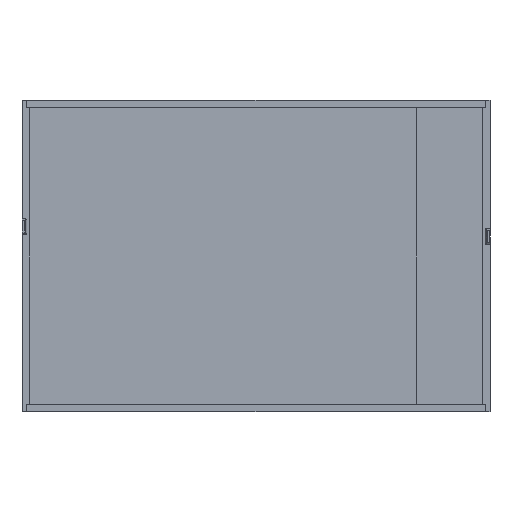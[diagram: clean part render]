
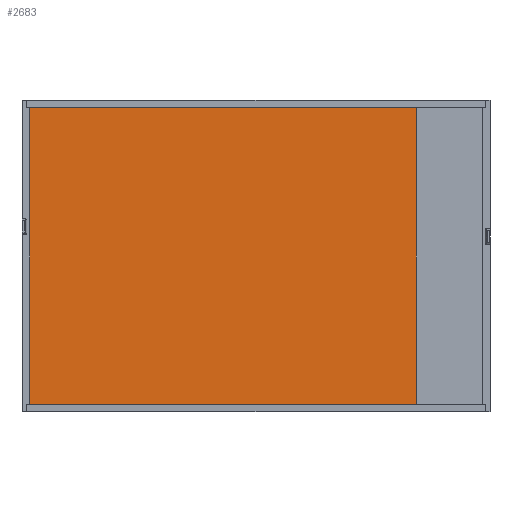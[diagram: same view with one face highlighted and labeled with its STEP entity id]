
A CAD part, front view. The second image highlights one B-rep face of the part: STEP entity #2683.
In plain terms, the highlighted planar face has unit normal (0, -1, 0).
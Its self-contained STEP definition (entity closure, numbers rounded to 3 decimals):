
#232 = LINE ( 'NONE', #3271, #240 ) ;
#240 = VECTOR ( 'NONE', #3231, 1000. ) ;
#407 = CARTESIAN_POINT ( 'NONE',  ( 247.5, 0.2, -189.775 ) ) ;
#558 = CARTESIAN_POINT ( 'NONE',  ( -247.5, 0.2, 189.775 ) ) ;
#1126 = VERTEX_POINT ( 'NONE', #558 ) ;
#1624 = EDGE_CURVE ( 'NONE', #1126, #10946, #3316, .T. ) ;
#2528 = EDGE_CURVE ( 'NONE', #6199, #4204, #7853, .T. ) ;
#2683 = ADVANCED_FACE ( 'NONE', ( #5123 ), #9339, .T. ) ;
#2905 = VECTOR ( 'NONE', #5394, 1000. ) ;
#3162 = CARTESIAN_POINT ( 'NONE',  ( -247.5, 0.2, -189.775 ) ) ;
#3231 = DIRECTION ( 'NONE',  ( 1., 0., 0. ) ) ;
#3271 = CARTESIAN_POINT ( 'NONE',  ( 247.5, 0.2, -189.775 ) ) ;
#3316 = LINE ( 'NONE', #5232, #2905 ) ;
#4115 = ORIENTED_EDGE ( 'NONE', *, *, #9520, .T. ) ;
#4151 = ORIENTED_EDGE ( 'NONE', *, *, #1624, .T. ) ;
#4192 = ORIENTED_EDGE ( 'NONE', *, *, #2528, .T. ) ;
#4204 = VERTEX_POINT ( 'NONE', #7867 ) ;
#4227 = ORIENTED_EDGE ( 'NONE', *, *, #7300, .T. ) ;
#4390 = EDGE_LOOP ( 'NONE', ( #4192, #4227, #4151, #4115 ) ) ;
#4480 = VECTOR ( 'NONE', #7157, 1000. ) ;
#4561 = LINE ( 'NONE', #7171, #4480 ) ;
#5123 = FACE_OUTER_BOUND ( 'NONE', #4390, .T. ) ;
#5230 = AXIS2_PLACEMENT_3D ( 'NONE', #9328, #9285, #9262 ) ;
#5232 = CARTESIAN_POINT ( 'NONE',  ( -247.5, 0.2, 189.775 ) ) ;
#5394 = DIRECTION ( 'NONE',  ( 0., 0., -1. ) ) ;
#6199 = VERTEX_POINT ( 'NONE', #407 ) ;
#7157 = DIRECTION ( 'NONE',  ( -1., 0., 0. ) ) ;
#7171 = CARTESIAN_POINT ( 'NONE',  ( 247.5, 0.2, 189.775 ) ) ;
#7300 = EDGE_CURVE ( 'NONE', #4204, #1126, #4561, .T. ) ;
#7568 = VECTOR ( 'NONE', #11070, 1000. ) ;
#7853 = LINE ( 'NONE', #11279, #7568 ) ;
#7867 = CARTESIAN_POINT ( 'NONE',  ( 247.5, 0.2, 189.775 ) ) ;
#9262 = DIRECTION ( 'NONE',  ( 0., 0., -1. ) ) ;
#9285 = DIRECTION ( 'NONE',  ( 0., -1., 0. ) ) ;
#9328 = CARTESIAN_POINT ( 'NONE',  ( 0., 0.2, 0. ) ) ;
#9339 = PLANE ( 'NONE',  #5230 ) ;
#9520 = EDGE_CURVE ( 'NONE', #10946, #6199, #232, .T. ) ;
#10946 = VERTEX_POINT ( 'NONE', #3162 ) ;
#11070 = DIRECTION ( 'NONE',  ( 0., 0., 1. ) ) ;
#11279 = CARTESIAN_POINT ( 'NONE',  ( 247.5, 0.2, 189.775 ) ) ;
